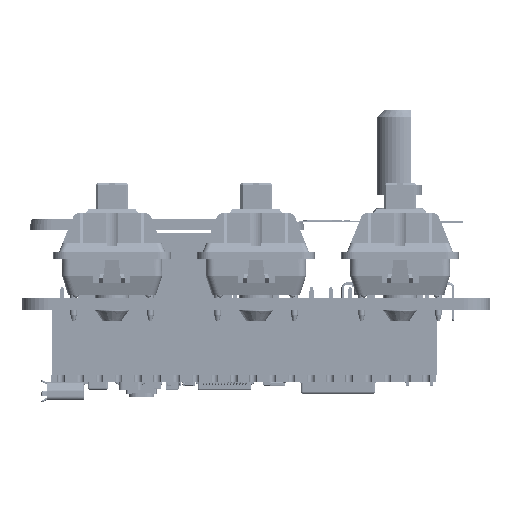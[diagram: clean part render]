
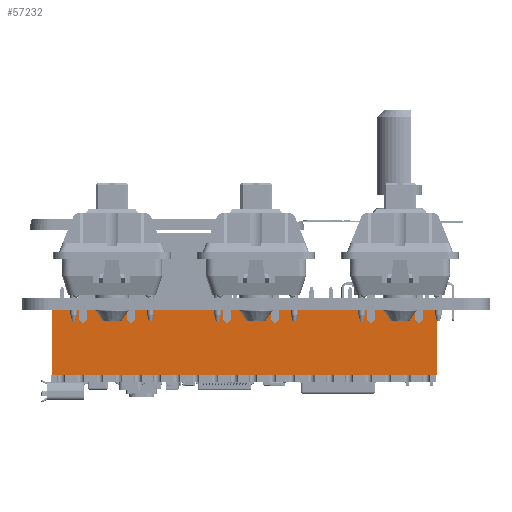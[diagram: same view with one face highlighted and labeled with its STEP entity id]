
A CAD part, front view. The second image highlights one B-rep face of the part: STEP entity #57232.
In plain terms, the highlighted planar face has unit normal (0, -1, 0) as drawn and (1, 0, 0) by its records, which use the part's own axes.
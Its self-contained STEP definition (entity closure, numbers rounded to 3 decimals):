
#57232 = ADVANCED_FACE('',(#57233),#57267,.F.);
#57233 = FACE_BOUND('',#57234,.F.);
#57234 = EDGE_LOOP('',(#57235,#57245,#57253,#57261));
#57235 = ORIENTED_EDGE('',*,*,#57236,.T.);
#57236 = EDGE_CURVE('',#57237,#57239,#57241,.T.);
#57237 = VERTEX_POINT('',#57238);
#57238 = CARTESIAN_POINT('',(1.27,-49.53,0.));
#57239 = VERTEX_POINT('',#57240);
#57240 = CARTESIAN_POINT('',(1.27,-49.53,8.5));
#57241 = LINE('',#57242,#57243);
#57242 = CARTESIAN_POINT('',(1.27,-49.53,0.));
#57243 = VECTOR('',#57244,1.);
#57244 = DIRECTION('',(0.,0.,1.));
#57245 = ORIENTED_EDGE('',*,*,#57246,.T.);
#57246 = EDGE_CURVE('',#57239,#57247,#57249,.T.);
#57247 = VERTEX_POINT('',#57248);
#57248 = CARTESIAN_POINT('',(1.27,1.27,8.5));
#57249 = LINE('',#57250,#57251);
#57250 = CARTESIAN_POINT('',(1.27,-49.53,8.5));
#57251 = VECTOR('',#57252,1.);
#57252 = DIRECTION('',(0.,1.,0.));
#57253 = ORIENTED_EDGE('',*,*,#57254,.F.);
#57254 = EDGE_CURVE('',#57255,#57247,#57257,.T.);
#57255 = VERTEX_POINT('',#57256);
#57256 = CARTESIAN_POINT('',(1.27,1.27,0.));
#57257 = LINE('',#57258,#57259);
#57258 = CARTESIAN_POINT('',(1.27,1.27,0.));
#57259 = VECTOR('',#57260,1.);
#57260 = DIRECTION('',(0.,0.,1.));
#57261 = ORIENTED_EDGE('',*,*,#57262,.F.);
#57262 = EDGE_CURVE('',#57237,#57255,#57263,.T.);
#57263 = LINE('',#57264,#57265);
#57264 = CARTESIAN_POINT('',(1.27,-49.53,0.));
#57265 = VECTOR('',#57266,1.);
#57266 = DIRECTION('',(0.,1.,0.));
#57267 = PLANE('',#57268);
#57268 = AXIS2_PLACEMENT_3D('',#57269,#57270,#57271);
#57269 = CARTESIAN_POINT('',(1.27,-49.53,0.));
#57270 = DIRECTION('',(-1.,0.,0.));
#57271 = DIRECTION('',(0.,1.,0.));
